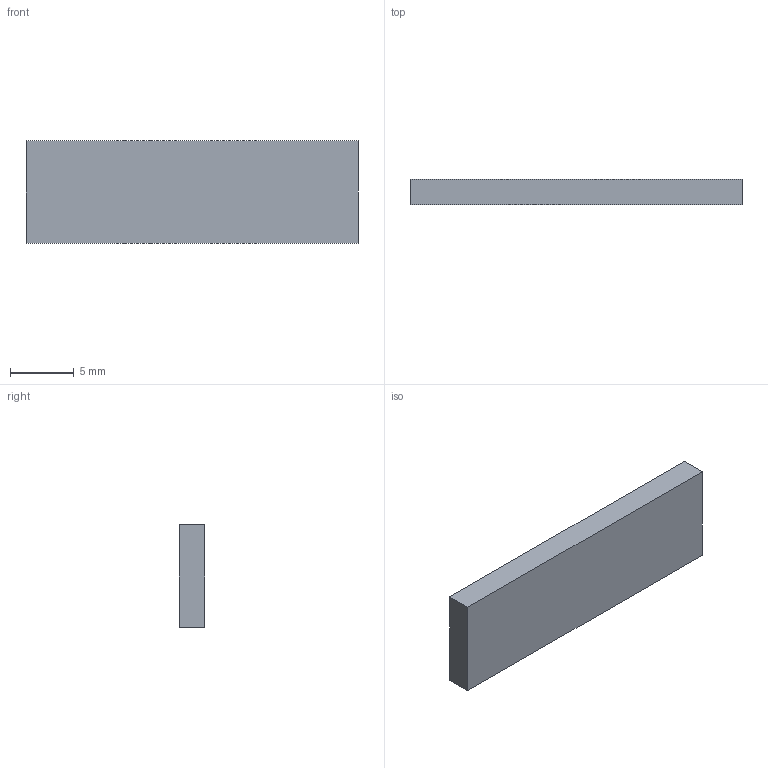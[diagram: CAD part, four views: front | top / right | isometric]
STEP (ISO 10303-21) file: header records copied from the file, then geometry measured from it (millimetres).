
FILE_DESCRIPTION (( 'STEP AP214' ), '1' );
FILE_NAME ('CESV-SPS.STEP', '2019-05-17T11:38:46', ( '' ), ( '' ), 'SwSTEP 2.0', 'SolidWorks 2018', '' );
FILE_SCHEMA (( 'AUTOMOTIVE_DESIGN' ));
Length unit declared in the file: millimetre
Products named in the file (1): CESV-SPS
Bounding box: 26 x 2 x 8 mm (x, y, z)
Volume: 416 mm3; surface area: 552 mm2
Topology: 1 solids, 1 shells, 6 faces, 12 edges, 8 vertices
Faces by surface type: plane 6
Entity records: 256 total; most frequent: CARTESIAN_POINT 27, DIRECTION 26, ORIENTED_EDGE 24, LINE 12, VECTOR 12, EDGE_CURVE 12, UNCERTAINTY_MEASURE_WITH_UNIT 9, PRESENTATION_STYLE_ASSIGNMENT 8
